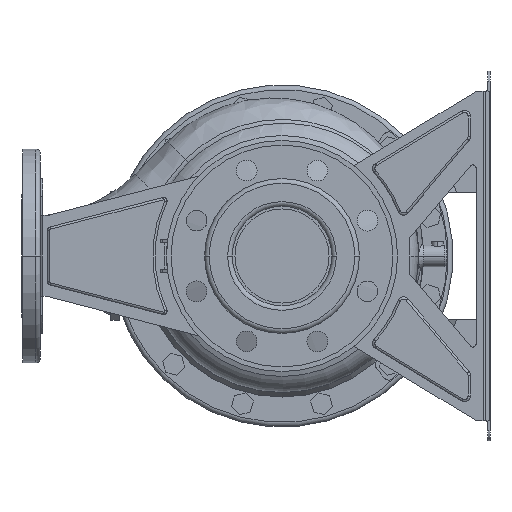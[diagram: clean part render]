
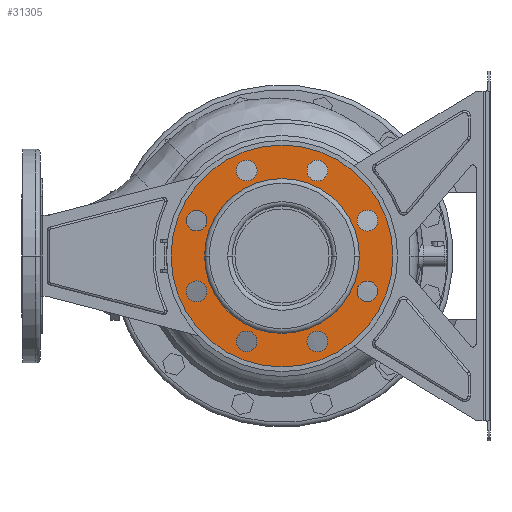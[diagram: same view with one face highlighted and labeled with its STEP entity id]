
A CAD part, front view. The second image highlights one B-rep face of the part: STEP entity #31305.
In plain terms, the highlighted planar face has unit normal (0, -1, 0) as drawn and (-1, 0, 0) by its records, which use the part's own axes.
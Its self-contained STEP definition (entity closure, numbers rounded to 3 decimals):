
#30438=CARTESIAN_POINT('',(14.,0.,0.));
#30439=DIRECTION('',(-1.,0.,0.));
#30440=DIRECTION('',(0.,1.,0.));
#30441=AXIS2_PLACEMENT_3D('',#30438,#30439,#30440);
#30446=CARTESIAN_POINT('',(14.,0.,0.));
#30447=DIRECTION('',(1.,0.,0.));
#30448=DIRECTION('',(0.,1.,0.));
#30449=AXIS2_PLACEMENT_3D('',#30446,#30447,#30448);
#30454=CARTESIAN_POINT('',(14.,-73.91,30.615));
#30455=DIRECTION('',(1.,0.,0.));
#30456=DIRECTION('',(0.,1.,0.));
#30457=AXIS2_PLACEMENT_3D('',#30454,#30455,#30456);
#30462=CARTESIAN_POINT('',(14.,-73.91,30.615));
#30463=DIRECTION('',(1.,0.,0.));
#30464=DIRECTION('',(0.,-1.,0.));
#30465=AXIS2_PLACEMENT_3D('',#30462,#30463,#30464);
#30470=CARTESIAN_POINT('',(14.,-73.91,-30.615));
#30471=DIRECTION('',(1.,0.,0.));
#30472=DIRECTION('',(0.,0.707,0.707));
#30473=AXIS2_PLACEMENT_3D('',#30470,#30471,#30472);
#30478=CARTESIAN_POINT('',(14.,-73.91,-30.615));
#30479=DIRECTION('',(1.,0.,0.));
#30480=DIRECTION('',(0.,-0.707,-0.707));
#30481=AXIS2_PLACEMENT_3D('',#30478,#30479,#30480);
#30486=CARTESIAN_POINT('',(14.,-30.615,-73.91));
#30487=DIRECTION('',(1.,0.,0.));
#30488=DIRECTION('',(0.,0.,1.));
#30489=AXIS2_PLACEMENT_3D('',#30486,#30487,#30488);
#30494=CARTESIAN_POINT('',(14.,-30.615,-73.91));
#30495=DIRECTION('',(1.,0.,0.));
#30496=DIRECTION('',(0.,0.,-1.));
#30497=AXIS2_PLACEMENT_3D('',#30494,#30495,#30496);
#30502=CARTESIAN_POINT('',(14.,30.615,-73.91));
#30503=DIRECTION('',(1.,0.,0.));
#30504=DIRECTION('',(0.,-0.707,0.707));
#30505=AXIS2_PLACEMENT_3D('',#30502,#30503,#30504);
#30510=CARTESIAN_POINT('',(14.,30.615,-73.91));
#30511=DIRECTION('',(1.,0.,0.));
#30512=DIRECTION('',(0.,0.707,-0.707));
#30513=AXIS2_PLACEMENT_3D('',#30510,#30511,#30512);
#30518=CARTESIAN_POINT('',(14.,73.91,-30.615));
#30519=DIRECTION('',(1.,0.,0.));
#30520=DIRECTION('',(0.,-1.,0.));
#30521=AXIS2_PLACEMENT_3D('',#30518,#30519,#30520);
#30526=CARTESIAN_POINT('',(14.,73.91,-30.615));
#30527=DIRECTION('',(1.,0.,0.));
#30528=DIRECTION('',(0.,1.,0.));
#30529=AXIS2_PLACEMENT_3D('',#30526,#30527,#30528);
#30534=CARTESIAN_POINT('',(14.,73.91,30.615));
#30535=DIRECTION('',(1.,0.,0.));
#30536=DIRECTION('',(0.,-0.707,-0.707));
#30537=AXIS2_PLACEMENT_3D('',#30534,#30535,#30536);
#30542=CARTESIAN_POINT('',(14.,73.91,30.615));
#30543=DIRECTION('',(1.,0.,0.));
#30544=DIRECTION('',(0.,0.707,0.707));
#30545=AXIS2_PLACEMENT_3D('',#30542,#30543,#30544);
#30550=CARTESIAN_POINT('',(14.,30.615,73.91));
#30551=DIRECTION('',(1.,0.,0.));
#30552=DIRECTION('',(0.,0.,-1.));
#30553=AXIS2_PLACEMENT_3D('',#30550,#30551,#30552);
#30558=CARTESIAN_POINT('',(14.,30.615,73.91));
#30559=DIRECTION('',(1.,0.,0.));
#30560=DIRECTION('',(0.,0.,1.));
#30561=AXIS2_PLACEMENT_3D('',#30558,#30559,#30560);
#30566=CARTESIAN_POINT('',(14.,-30.615,73.91));
#30567=DIRECTION('',(1.,0.,0.));
#30568=DIRECTION('',(0.,0.707,-0.707));
#30569=AXIS2_PLACEMENT_3D('',#30566,#30567,#30568);
#30574=CARTESIAN_POINT('',(14.,-30.615,73.91));
#30575=DIRECTION('',(1.,0.,0.));
#30576=DIRECTION('',(0.,-0.707,0.707));
#30577=AXIS2_PLACEMENT_3D('',#30574,#30575,#30576);
#30582=CARTESIAN_POINT('',(14.,0.,0.));
#30583=DIRECTION('',(1.,0.,0.));
#30584=DIRECTION('',(0.,1.,0.));
#30585=AXIS2_PLACEMENT_3D('',#30582,#30583,#30584);
#30604=CARTESIAN_POINT('',(14.,0.,0.));
#30605=DIRECTION('',(-1.,0.,0.));
#30606=DIRECTION('',(0.,1.,0.));
#30607=AXIS2_PLACEMENT_3D('',#30604,#30605,#30606);
#30825=CARTESIAN_POINT('',(14.,96.,0.));
#30827=VERTEX_POINT('',#30825);
#30828=CARTESIAN_POINT('',(14.,67.,0.));
#30830=VERTEX_POINT('',#30828);
#30857=CARTESIAN_POINT('',(14.,-96.,0.));
#30859=VERTEX_POINT('',#30857);
#30860=CARTESIAN_POINT('',(14.,-67.,0.));
#30862=VERTEX_POINT('',#30860);
#30872=CARTESIAN_POINT('',(14.,-64.91,30.615));
#30873=CARTESIAN_POINT('',(14.,-82.91,30.615));
#30874=VERTEX_POINT('',#30872);
#30875=VERTEX_POINT('',#30873);
#30880=CARTESIAN_POINT('',(14.,-67.546,-24.251));
#30881=CARTESIAN_POINT('',(14.,-80.274,-36.979));
#30882=VERTEX_POINT('',#30880);
#30883=VERTEX_POINT('',#30881);
#30888=CARTESIAN_POINT('',(14.,-30.615,-64.91));
#30889=CARTESIAN_POINT('',(14.,-30.615,-82.91));
#30890=VERTEX_POINT('',#30888);
#30891=VERTEX_POINT('',#30889);
#30896=CARTESIAN_POINT('',(14.,24.251,-67.546));
#30897=CARTESIAN_POINT('',(14.,36.979,-80.274));
#30898=VERTEX_POINT('',#30896);
#30899=VERTEX_POINT('',#30897);
#30904=CARTESIAN_POINT('',(14.,64.91,-30.615));
#30905=CARTESIAN_POINT('',(14.,82.91,-30.615));
#30906=VERTEX_POINT('',#30904);
#30907=VERTEX_POINT('',#30905);
#30912=CARTESIAN_POINT('',(14.,67.546,24.251));
#30913=CARTESIAN_POINT('',(14.,80.274,36.979));
#30914=VERTEX_POINT('',#30912);
#30915=VERTEX_POINT('',#30913);
#30920=CARTESIAN_POINT('',(14.,30.615,64.91));
#30921=CARTESIAN_POINT('',(14.,30.615,82.91));
#30922=VERTEX_POINT('',#30920);
#30923=VERTEX_POINT('',#30921);
#30928=CARTESIAN_POINT('',(14.,-24.251,67.546));
#30929=CARTESIAN_POINT('',(14.,-36.979,80.274));
#30930=VERTEX_POINT('',#30928);
#30931=VERTEX_POINT('',#30929);
#31242=CARTESIAN_POINT('',(14.,0.,0.));
#31243=DIRECTION('',(1.,0.,0.));
#31244=DIRECTION('',(0.,-1.,0.));
#31245=AXIS2_PLACEMENT_3D('',#31242,#31243,#31244);
#31246=PLANE('',#31245);
#31247=ORIENTED_EDGE('',*,*,#31235,.F.);
#31248=ORIENTED_EDGE('',*,*,#31224,.T.);
#31249=EDGE_LOOP('',(#31247,#31248));
#31250=FACE_OUTER_BOUND('',#31249,.F.);
#31252=ORIENTED_EDGE('',*,*,#31251,.F.);
#31254=ORIENTED_EDGE('',*,*,#31253,.T.);
#31255=EDGE_LOOP('',(#31252,#31254));
#31256=FACE_BOUND('',#31255,.F.);
#31258=ORIENTED_EDGE('',*,*,#31257,.F.);
#31260=ORIENTED_EDGE('',*,*,#31259,.F.);
#31261=EDGE_LOOP('',(#31258,#31260));
#31262=FACE_BOUND('',#31261,.F.);
#31264=ORIENTED_EDGE('',*,*,#31263,.F.);
#31266=ORIENTED_EDGE('',*,*,#31265,.F.);
#31267=EDGE_LOOP('',(#31264,#31266));
#31268=FACE_BOUND('',#31267,.F.);
#31270=ORIENTED_EDGE('',*,*,#31269,.F.);
#31272=ORIENTED_EDGE('',*,*,#31271,.F.);
#31273=EDGE_LOOP('',(#31270,#31272));
#31274=FACE_BOUND('',#31273,.F.);
#31276=ORIENTED_EDGE('',*,*,#31275,.F.);
#31278=ORIENTED_EDGE('',*,*,#31277,.F.);
#31279=EDGE_LOOP('',(#31276,#31278));
#31280=FACE_BOUND('',#31279,.F.);
#31282=ORIENTED_EDGE('',*,*,#31281,.F.);
#31284=ORIENTED_EDGE('',*,*,#31283,.F.);
#31285=EDGE_LOOP('',(#31282,#31284));
#31286=FACE_BOUND('',#31285,.F.);
#31288=ORIENTED_EDGE('',*,*,#31287,.F.);
#31290=ORIENTED_EDGE('',*,*,#31289,.F.);
#31291=EDGE_LOOP('',(#31288,#31290));
#31292=FACE_BOUND('',#31291,.F.);
#31294=ORIENTED_EDGE('',*,*,#31293,.F.);
#31296=ORIENTED_EDGE('',*,*,#31295,.F.);
#31297=EDGE_LOOP('',(#31294,#31296));
#31298=FACE_BOUND('',#31297,.F.);
#31300=ORIENTED_EDGE('',*,*,#31299,.F.);
#31302=ORIENTED_EDGE('',*,*,#31301,.F.);
#31303=EDGE_LOOP('',(#31300,#31302));
#31304=FACE_BOUND('',#31303,.F.);
#30442=CIRCLE('',#30441,96.);
#30450=CIRCLE('',#30449,96.);
#30458=CIRCLE('',#30457,9.);
#30466=CIRCLE('',#30465,9.);
#30474=CIRCLE('',#30473,9.);
#30482=CIRCLE('',#30481,9.);
#30490=CIRCLE('',#30489,9.);
#30498=CIRCLE('',#30497,9.);
#30506=CIRCLE('',#30505,9.);
#30514=CIRCLE('',#30513,9.);
#30522=CIRCLE('',#30521,9.);
#30530=CIRCLE('',#30529,9.);
#30538=CIRCLE('',#30537,9.);
#30546=CIRCLE('',#30545,9.);
#30554=CIRCLE('',#30553,9.);
#30562=CIRCLE('',#30561,9.);
#30570=CIRCLE('',#30569,9.);
#30578=CIRCLE('',#30577,9.);
#30586=CIRCLE('',#30585,67.);
#30608=CIRCLE('',#30607,67.);
#31224=EDGE_CURVE('',#30827,#30859,#30450,.T.);
#31235=EDGE_CURVE('',#30827,#30859,#30442,.T.);
#31251=EDGE_CURVE('',#30830,#30862,#30586,.T.);
#31253=EDGE_CURVE('',#30830,#30862,#30608,.T.);
#31257=EDGE_CURVE('',#30874,#30875,#30458,.T.);
#31259=EDGE_CURVE('',#30875,#30874,#30466,.T.);
#31263=EDGE_CURVE('',#30882,#30883,#30474,.T.);
#31265=EDGE_CURVE('',#30883,#30882,#30482,.T.);
#31269=EDGE_CURVE('',#30890,#30891,#30490,.T.);
#31271=EDGE_CURVE('',#30891,#30890,#30498,.T.);
#31275=EDGE_CURVE('',#30898,#30899,#30506,.T.);
#31277=EDGE_CURVE('',#30899,#30898,#30514,.T.);
#31281=EDGE_CURVE('',#30906,#30907,#30522,.T.);
#31283=EDGE_CURVE('',#30907,#30906,#30530,.T.);
#31287=EDGE_CURVE('',#30914,#30915,#30538,.T.);
#31289=EDGE_CURVE('',#30915,#30914,#30546,.T.);
#31293=EDGE_CURVE('',#30922,#30923,#30554,.T.);
#31295=EDGE_CURVE('',#30923,#30922,#30562,.T.);
#31299=EDGE_CURVE('',#30930,#30931,#30570,.T.);
#31301=EDGE_CURVE('',#30931,#30930,#30578,.T.);
#31305=ADVANCED_FACE('',(#31250,#31256,#31262,#31268,#31274,#31280,#31286,
#31292,#31298,#31304),#31246,.F.);
